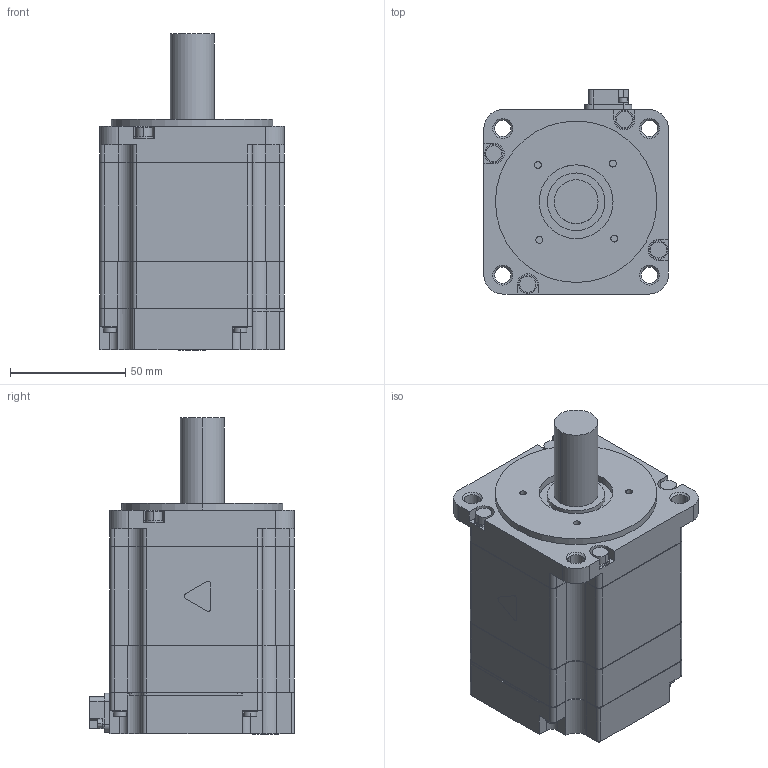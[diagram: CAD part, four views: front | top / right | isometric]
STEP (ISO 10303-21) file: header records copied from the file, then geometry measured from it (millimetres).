
FILE_DESCRIPTION((''),'2;1');
FILE_NAME('SGM7A-08A','2013-11-20T',('shibuya'),('YASKAWA ELECTRIC CORCORATION'),'PRO/ENGINEER BY PARAMETRIC TECHNOLOGY CORPORATION, 2011490','PRO/ENGINEER BY PARAMETRIC TECHNOLOGY CORPORATION, 2011490','');
FILE_SCHEMA(('AUTOMOTIVE_DESIGN { 1 0 10303 214 1 1 1 1 }'));
Length unit declared in the file: millimetre
Products named in the file (1): SGM7A-08A
Bounding box: 80.1 x 88.8 x 137.1 mm (x, y, z)
Volume: 568950.8 mm3; surface area: 49342.7 mm2
Topology: 1 solids, 3 shells, 442 faces, 1147 edges, 756 vertices
Faces by surface type: plane 231, cylinder 195, cone 16
Entity records: 19128 total; most frequent: DIRECTION 2447, CARTESIAN_POINT 2356, ORIENTED_EDGE 2294, EDGE_CURVE 1147, FILL_AREA_STYLE_COLOUR 884, FILL_AREA_STYLE 884, SURFACE_STYLE_FILL_AREA 884, SURFACE_SIDE_STYLE 884
